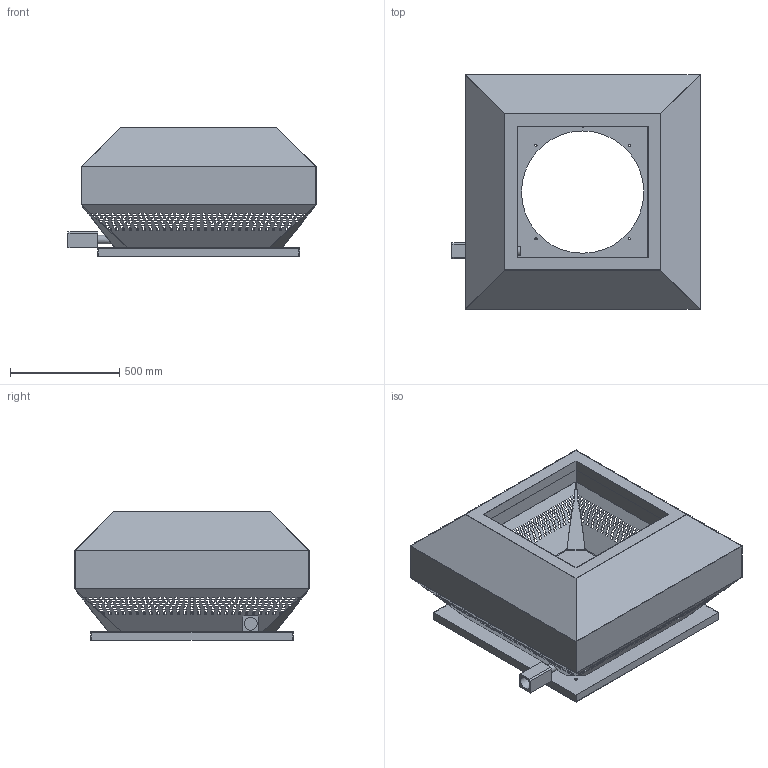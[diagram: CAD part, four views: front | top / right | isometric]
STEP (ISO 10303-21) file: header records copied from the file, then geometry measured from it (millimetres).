
FILE_DESCRIPTION(/* description */ (''),/* implementation_level */ '2;1');
FILE_NAME(/* name */ 'Z:\Output\RDD_560-6-07429-001.stp',/* time_stamp */ '2020-06-25T16:59:57+02:00',/* author */ ('engineering1'),/* organization */ (''),/* preprocessor_version */ 'ST-DEVELOPER v17.2',/* originating_system */ 'Autodesk Inventor 2019',/* authorisation */ '');
FILE_SCHEMA (('AUTOMOTIVE_DESIGN { 1 0 10303 214 3 1 1 }'));
Products named in the file (1): RD-2
Bounding box: 1136 x 1075 x 590.5 mm (x, y, z)
Volume: 8579553.3 mm3; surface area: 7097798.4 mm2
Topology: 1 solids, 1 shells, 3857 faces, 11680 edges, 7752 vertices
Faces by surface type: plane 3841, cylinder 16
Full cylindrical faces by diameter (mm): 10 x8, 14 x4, 39.367 x2, 59.05 x1, 560 x1
Entity records: 133658 total; most frequent: ORIENTED_EDGE 23360, CARTESIAN_POINT 23290, DIRECTION 19428, EDGE_CURVE 11680, LINE 11648, VECTOR 11648, VERTEX_POINT 7752, EDGE_LOOP 5676
